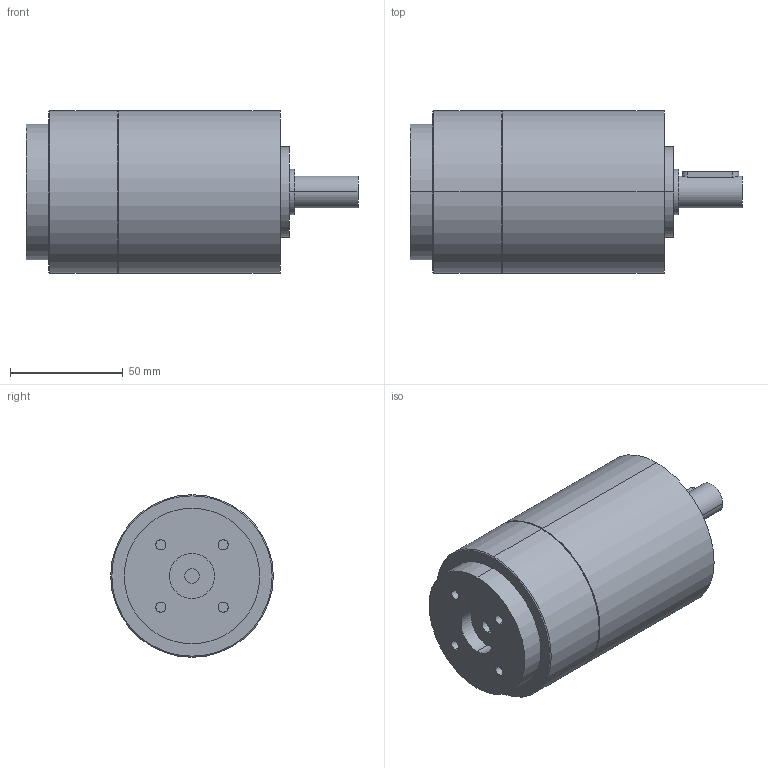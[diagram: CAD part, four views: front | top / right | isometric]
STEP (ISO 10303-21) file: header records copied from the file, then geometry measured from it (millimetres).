
FILE_DESCRIPTION(('CoCreate Modeling STEP Export'),'2;1');
FILE_NAME('GPT75_ig-9-12-16-20-25-28-35-40-50-70-100_14_B14T_6.35_P14.stp','2014-08-27T13:17:51',(''),(''),'CoCreate Modeling STEP processor for AP214 (Solid Model)','CoCreate Modeling 16.00C 25-Feb-2009 (C) Parametric Technology GmbH','');
FILE_SCHEMA(('AUTOMOTIVE_DESIGN { 1 0 10303 214 1 1 1 1 }'));
Length unit declared in the file: millimetre
Products named in the file (2): GPT75_ig-9-12-16-20-25-28-35-40-50-70-100_14_B14T_6.35_P14
Assembly tree (1 placements, depth 2):
  GPT75_ig-9-12-16-20-25-28-35-40-50-70-100_14_B14T_6.35_P14
    GPT75_ig-9-12-16-20-25-28-35-40-50-70-100_14_B14T_6.35_P14
Bounding box: 147 x 72 x 72 mm (x, y, z)
Volume: 451213.5 mm3; surface area: 37755.6 mm2
Topology: 1 solids, 1 shells, 61 faces, 137 edges, 94 vertices
Faces by surface type: cylinder 36, plane 21, cone 4
Entity records: 1823 total; most frequent: CARTESIAN_POINT 606, ORIENTED_EDGE 274, DIRECTION 202, EDGE_CURVE 137, VERTEX_POINT 94, AXIS2_PLACEMENT_3D 78, EDGE_LOOP 77, FACE_OUTER_BOUND 61
